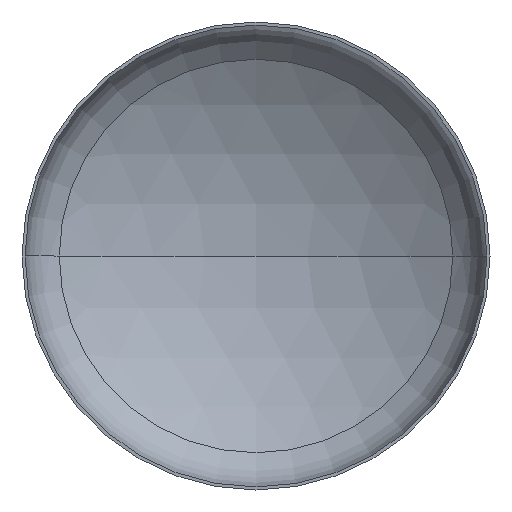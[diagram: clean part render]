
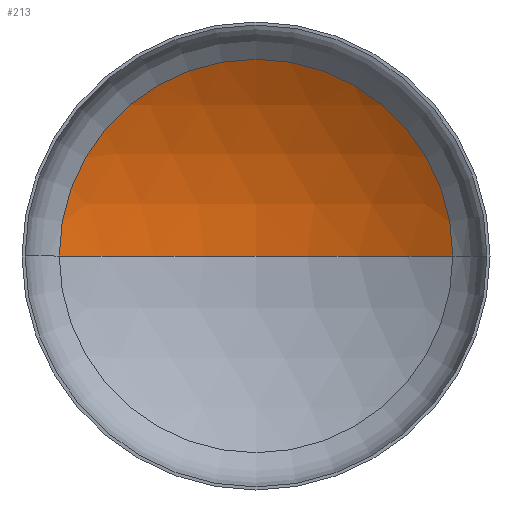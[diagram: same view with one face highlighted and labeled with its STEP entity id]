
A CAD part, front view. The second image highlights one B-rep face of the part: STEP entity #213.
In plain terms, the highlighted spherical face has radius 5200 mm.
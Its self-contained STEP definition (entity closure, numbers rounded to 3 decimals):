
#1 = VERTEX_POINT ( 'NONE', #253 ) ;
#18 = ORIENTED_EDGE ( 'NONE', *, *, #298, .F. ) ;
#29 = EDGE_LOOP ( 'NONE', ( #18, #306, #294 ) ) ;
#63 = CARTESIAN_POINT ( 'NONE',  ( 0., 980.808, 0. ) ) ;
#66 = DIRECTION ( 'NONE',  ( 0., -1., 0. ) ) ;
#67 = DIRECTION ( 'NONE',  ( 1., 0., 0. ) ) ;
#86 = CARTESIAN_POINT ( 'NONE',  ( 0., -3443.395, 0. ) ) ;
#103 = DIRECTION ( 'NONE',  ( 1., 0., 0. ) ) ;
#108 = CARTESIAN_POINT ( 'NONE',  ( -2732.476, 980.808, 0. ) ) ;
#119 = DIRECTION ( 'NONE',  ( 0., 0., -1. ) ) ;
#147 = CARTESIAN_POINT ( 'NONE',  ( 0., -3443.395, 0. ) ) ;
#184 = CIRCLE ( 'NONE', #243, 2732.476 ) ;
#186 = AXIS2_PLACEMENT_3D ( 'NONE', #147, #368, #223 ) ;
#205 = FACE_OUTER_BOUND ( 'NONE', #29, .T. ) ;
#213 = ADVANCED_FACE ( 'NONE', ( #205 ), #348, .F. ) ;
#220 = AXIS2_PLACEMENT_3D ( 'NONE', #301, #119, #330 ) ;
#223 = DIRECTION ( 'NONE',  ( -1., 0., 0. ) ) ;
#243 = AXIS2_PLACEMENT_3D ( 'NONE', #63, #66, #67 ) ;
#247 = DIRECTION ( 'NONE',  ( 0., 0., 1. ) ) ;
#248 = VERTEX_POINT ( 'NONE', #108 ) ;
#253 = CARTESIAN_POINT ( 'NONE',  ( 2732.476, 980.808, 0. ) ) ;
#257 = VERTEX_POINT ( 'NONE', #377 ) ;
#260 = EDGE_CURVE ( 'NONE', #1, #248, #184, .T. ) ;
#279 = EDGE_CURVE ( 'NONE', #257, #1, #396, .T. ) ;
#294 = ORIENTED_EDGE ( 'NONE', *, *, #260, .T. ) ;
#298 = EDGE_CURVE ( 'NONE', #257, #248, #405, .T. ) ;
#301 = CARTESIAN_POINT ( 'NONE',  ( 0., -3443.395, 0. ) ) ;
#305 = AXIS2_PLACEMENT_3D ( 'NONE', #86, #247, #103 ) ;
#306 = ORIENTED_EDGE ( 'NONE', *, *, #279, .T. ) ;
#330 = DIRECTION ( 'NONE',  ( -1., 0., 0. ) ) ;
#348 = SPHERICAL_SURFACE ( 'NONE', #186, 5200. ) ;
#368 = DIRECTION ( 'NONE',  ( 0., 0., -1. ) ) ;
#377 = CARTESIAN_POINT ( 'NONE',  ( 0., 1756.605, 0. ) ) ;
#396 = CIRCLE ( 'NONE', #220, 5200. ) ;
#405 = CIRCLE ( 'NONE', #305, 5200. ) ;
